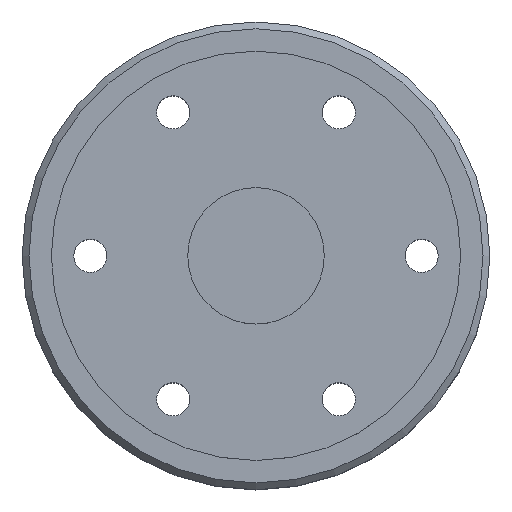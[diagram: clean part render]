
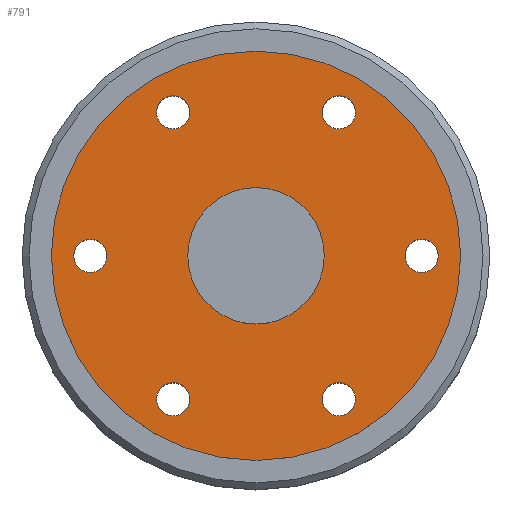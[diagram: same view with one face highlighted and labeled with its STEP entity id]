
A CAD part, top view. The second image highlights one B-rep face of the part: STEP entity #791.
In plain terms, the highlighted planar face has unit normal (0, 0, 1).
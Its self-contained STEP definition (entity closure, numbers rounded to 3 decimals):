
#235 = CYLINDRICAL_SURFACE('',#236,1.7);
#236 = AXIS2_PLACEMENT_3D('',#237,#238,#239);
#237 = CARTESIAN_POINT('',(-8.5,-14.722,-20.));
#238 = DIRECTION('',(0.,0.,1.));
#239 = DIRECTION('',(1.,0.,-0.));
#266 = CYLINDRICAL_SURFACE('',#267,1.7);
#267 = AXIS2_PLACEMENT_3D('',#268,#269,#270);
#268 = CARTESIAN_POINT('',(8.5,-14.722,-20.));
#269 = DIRECTION('',(0.,0.,1.));
#270 = DIRECTION('',(1.,0.,-0.));
#297 = CYLINDRICAL_SURFACE('',#298,1.7);
#298 = AXIS2_PLACEMENT_3D('',#299,#300,#301);
#299 = CARTESIAN_POINT('',(-17.,0.,-20.));
#300 = DIRECTION('',(0.,0.,1.));
#301 = DIRECTION('',(1.,0.,-0.));
#328 = CYLINDRICAL_SURFACE('',#329,1.7);
#329 = AXIS2_PLACEMENT_3D('',#330,#331,#332);
#330 = CARTESIAN_POINT('',(-8.5,14.722,-20.));
#331 = DIRECTION('',(0.,0.,1.));
#332 = DIRECTION('',(1.,0.,-0.));
#359 = CYLINDRICAL_SURFACE('',#360,1.7);
#360 = AXIS2_PLACEMENT_3D('',#361,#362,#363);
#361 = CARTESIAN_POINT('',(17.,0.,-20.));
#362 = DIRECTION('',(0.,0.,1.));
#363 = DIRECTION('',(1.,0.,-0.));
#390 = CYLINDRICAL_SURFACE('',#391,1.7);
#391 = AXIS2_PLACEMENT_3D('',#392,#393,#394);
#392 = CARTESIAN_POINT('',(8.5,14.722,-20.));
#393 = DIRECTION('',(0.,0.,1.));
#394 = DIRECTION('',(1.,0.,-0.));
#425 = CYLINDRICAL_SURFACE('',#426,21.);
#426 = AXIS2_PLACEMENT_3D('',#427,#428,#429);
#427 = CARTESIAN_POINT('',(0.,0.,8.));
#428 = DIRECTION('',(0.,0.,1.));
#429 = DIRECTION('',(1.,0.,-0.));
#440 = EDGE_CURVE('',#441,#441,#443,.T.);
#441 = VERTEX_POINT('',#442);
#442 = CARTESIAN_POINT('',(-6.8,-14.722,10.));
#443 = SURFACE_CURVE('',#444,(#449,#456),.PCURVE_S1.);
#444 = CIRCLE('',#445,1.7);
#445 = AXIS2_PLACEMENT_3D('',#446,#447,#448);
#446 = CARTESIAN_POINT('',(-8.5,-14.722,10.));
#447 = DIRECTION('',(0.,0.,1.));
#448 = DIRECTION('',(1.,0.,-0.));
#449 = PCURVE('',#235,#450);
#450 = DEFINITIONAL_REPRESENTATION('',(#451),#455);
#451 = LINE('',#452,#453);
#452 = CARTESIAN_POINT('',(0.,30.));
#453 = VECTOR('',#454,1.);
#454 = DIRECTION('',(1.,0.));
#455 = ( GEOMETRIC_REPRESENTATION_CONTEXT(2) 
PARAMETRIC_REPRESENTATION_CONTEXT() REPRESENTATION_CONTEXT('2D SPACE',''
  ) );
#456 = PCURVE('',#457,#462);
#457 = PLANE('',#458);
#458 = AXIS2_PLACEMENT_3D('',#459,#460,#461);
#459 = CARTESIAN_POINT('',(0.,0.,10.));
#460 = DIRECTION('',(0.,0.,1.));
#461 = DIRECTION('',(1.,0.,-0.));
#462 = DEFINITIONAL_REPRESENTATION('',(#463),#467);
#463 = CIRCLE('',#464,1.7);
#464 = AXIS2_PLACEMENT_2D('',#465,#466);
#465 = CARTESIAN_POINT('',(-8.5,-14.722));
#466 = DIRECTION('',(1.,0.));
#467 = ( GEOMETRIC_REPRESENTATION_CONTEXT(2) 
PARAMETRIC_REPRESENTATION_CONTEXT() REPRESENTATION_CONTEXT('2D SPACE',''
  ) );
#495 = EDGE_CURVE('',#496,#496,#498,.T.);
#496 = VERTEX_POINT('',#497);
#497 = CARTESIAN_POINT('',(10.2,-14.722,10.));
#498 = SURFACE_CURVE('',#499,(#504,#511),.PCURVE_S1.);
#499 = CIRCLE('',#500,1.7);
#500 = AXIS2_PLACEMENT_3D('',#501,#502,#503);
#501 = CARTESIAN_POINT('',(8.5,-14.722,10.));
#502 = DIRECTION('',(0.,0.,1.));
#503 = DIRECTION('',(1.,0.,-0.));
#504 = PCURVE('',#266,#505);
#505 = DEFINITIONAL_REPRESENTATION('',(#506),#510);
#506 = LINE('',#507,#508);
#507 = CARTESIAN_POINT('',(0.,30.));
#508 = VECTOR('',#509,1.);
#509 = DIRECTION('',(1.,0.));
#510 = ( GEOMETRIC_REPRESENTATION_CONTEXT(2) 
PARAMETRIC_REPRESENTATION_CONTEXT() REPRESENTATION_CONTEXT('2D SPACE',''
  ) );
#511 = PCURVE('',#457,#512);
#512 = DEFINITIONAL_REPRESENTATION('',(#513),#517);
#513 = CIRCLE('',#514,1.7);
#514 = AXIS2_PLACEMENT_2D('',#515,#516);
#515 = CARTESIAN_POINT('',(8.5,-14.722));
#516 = DIRECTION('',(1.,0.));
#517 = ( GEOMETRIC_REPRESENTATION_CONTEXT(2) 
PARAMETRIC_REPRESENTATION_CONTEXT() REPRESENTATION_CONTEXT('2D SPACE',''
  ) );
#545 = EDGE_CURVE('',#546,#546,#548,.T.);
#546 = VERTEX_POINT('',#547);
#547 = CARTESIAN_POINT('',(-15.3,0.,10.));
#548 = SURFACE_CURVE('',#549,(#554,#561),.PCURVE_S1.);
#549 = CIRCLE('',#550,1.7);
#550 = AXIS2_PLACEMENT_3D('',#551,#552,#553);
#551 = CARTESIAN_POINT('',(-17.,0.,10.));
#552 = DIRECTION('',(0.,0.,1.));
#553 = DIRECTION('',(1.,0.,-0.));
#554 = PCURVE('',#297,#555);
#555 = DEFINITIONAL_REPRESENTATION('',(#556),#560);
#556 = LINE('',#557,#558);
#557 = CARTESIAN_POINT('',(0.,30.));
#558 = VECTOR('',#559,1.);
#559 = DIRECTION('',(1.,0.));
#560 = ( GEOMETRIC_REPRESENTATION_CONTEXT(2) 
PARAMETRIC_REPRESENTATION_CONTEXT() REPRESENTATION_CONTEXT('2D SPACE',''
  ) );
#561 = PCURVE('',#457,#562);
#562 = DEFINITIONAL_REPRESENTATION('',(#563),#567);
#563 = CIRCLE('',#564,1.7);
#564 = AXIS2_PLACEMENT_2D('',#565,#566);
#565 = CARTESIAN_POINT('',(-17.,0.));
#566 = DIRECTION('',(1.,0.));
#567 = ( GEOMETRIC_REPRESENTATION_CONTEXT(2) 
PARAMETRIC_REPRESENTATION_CONTEXT() REPRESENTATION_CONTEXT('2D SPACE',''
  ) );
#595 = EDGE_CURVE('',#596,#596,#598,.T.);
#596 = VERTEX_POINT('',#597);
#597 = CARTESIAN_POINT('',(-6.8,14.722,10.));
#598 = SURFACE_CURVE('',#599,(#604,#611),.PCURVE_S1.);
#599 = CIRCLE('',#600,1.7);
#600 = AXIS2_PLACEMENT_3D('',#601,#602,#603);
#601 = CARTESIAN_POINT('',(-8.5,14.722,10.));
#602 = DIRECTION('',(0.,0.,1.));
#603 = DIRECTION('',(1.,0.,-0.));
#604 = PCURVE('',#328,#605);
#605 = DEFINITIONAL_REPRESENTATION('',(#606),#610);
#606 = LINE('',#607,#608);
#607 = CARTESIAN_POINT('',(0.,30.));
#608 = VECTOR('',#609,1.);
#609 = DIRECTION('',(1.,0.));
#610 = ( GEOMETRIC_REPRESENTATION_CONTEXT(2) 
PARAMETRIC_REPRESENTATION_CONTEXT() REPRESENTATION_CONTEXT('2D SPACE',''
  ) );
#611 = PCURVE('',#457,#612);
#612 = DEFINITIONAL_REPRESENTATION('',(#613),#617);
#613 = CIRCLE('',#614,1.7);
#614 = AXIS2_PLACEMENT_2D('',#615,#616);
#615 = CARTESIAN_POINT('',(-8.5,14.722));
#616 = DIRECTION('',(1.,0.));
#617 = ( GEOMETRIC_REPRESENTATION_CONTEXT(2) 
PARAMETRIC_REPRESENTATION_CONTEXT() REPRESENTATION_CONTEXT('2D SPACE',''
  ) );
#645 = EDGE_CURVE('',#646,#646,#648,.T.);
#646 = VERTEX_POINT('',#647);
#647 = CARTESIAN_POINT('',(18.7,0.,10.));
#648 = SURFACE_CURVE('',#649,(#654,#661),.PCURVE_S1.);
#649 = CIRCLE('',#650,1.7);
#650 = AXIS2_PLACEMENT_3D('',#651,#652,#653);
#651 = CARTESIAN_POINT('',(17.,0.,10.));
#652 = DIRECTION('',(0.,0.,1.));
#653 = DIRECTION('',(1.,0.,-0.));
#654 = PCURVE('',#359,#655);
#655 = DEFINITIONAL_REPRESENTATION('',(#656),#660);
#656 = LINE('',#657,#658);
#657 = CARTESIAN_POINT('',(0.,30.));
#658 = VECTOR('',#659,1.);
#659 = DIRECTION('',(1.,0.));
#660 = ( GEOMETRIC_REPRESENTATION_CONTEXT(2) 
PARAMETRIC_REPRESENTATION_CONTEXT() REPRESENTATION_CONTEXT('2D SPACE',''
  ) );
#661 = PCURVE('',#457,#662);
#662 = DEFINITIONAL_REPRESENTATION('',(#663),#667);
#663 = CIRCLE('',#664,1.7);
#664 = AXIS2_PLACEMENT_2D('',#665,#666);
#665 = CARTESIAN_POINT('',(17.,0.));
#666 = DIRECTION('',(1.,0.));
#667 = ( GEOMETRIC_REPRESENTATION_CONTEXT(2) 
PARAMETRIC_REPRESENTATION_CONTEXT() REPRESENTATION_CONTEXT('2D SPACE',''
  ) );
#695 = EDGE_CURVE('',#696,#696,#698,.T.);
#696 = VERTEX_POINT('',#697);
#697 = CARTESIAN_POINT('',(10.2,14.722,10.));
#698 = SURFACE_CURVE('',#699,(#704,#711),.PCURVE_S1.);
#699 = CIRCLE('',#700,1.7);
#700 = AXIS2_PLACEMENT_3D('',#701,#702,#703);
#701 = CARTESIAN_POINT('',(8.5,14.722,10.));
#702 = DIRECTION('',(0.,0.,1.));
#703 = DIRECTION('',(1.,0.,-0.));
#704 = PCURVE('',#390,#705);
#705 = DEFINITIONAL_REPRESENTATION('',(#706),#710);
#706 = LINE('',#707,#708);
#707 = CARTESIAN_POINT('',(0.,30.));
#708 = VECTOR('',#709,1.);
#709 = DIRECTION('',(1.,0.));
#710 = ( GEOMETRIC_REPRESENTATION_CONTEXT(2) 
PARAMETRIC_REPRESENTATION_CONTEXT() REPRESENTATION_CONTEXT('2D SPACE',''
  ) );
#711 = PCURVE('',#457,#712);
#712 = DEFINITIONAL_REPRESENTATION('',(#713),#717);
#713 = CIRCLE('',#714,1.7);
#714 = AXIS2_PLACEMENT_2D('',#715,#716);
#715 = CARTESIAN_POINT('',(8.5,14.722));
#716 = DIRECTION('',(1.,0.));
#717 = ( GEOMETRIC_REPRESENTATION_CONTEXT(2) 
PARAMETRIC_REPRESENTATION_CONTEXT() REPRESENTATION_CONTEXT('2D SPACE',''
  ) );
#745 = EDGE_CURVE('',#746,#746,#748,.T.);
#746 = VERTEX_POINT('',#747);
#747 = CARTESIAN_POINT('',(21.,0.,10.));
#748 = SURFACE_CURVE('',#749,(#754,#761),.PCURVE_S1.);
#749 = CIRCLE('',#750,21.);
#750 = AXIS2_PLACEMENT_3D('',#751,#752,#753);
#751 = CARTESIAN_POINT('',(0.,0.,10.));
#752 = DIRECTION('',(0.,0.,1.));
#753 = DIRECTION('',(1.,0.,-0.));
#754 = PCURVE('',#425,#755);
#755 = DEFINITIONAL_REPRESENTATION('',(#756),#760);
#756 = LINE('',#757,#758);
#757 = CARTESIAN_POINT('',(0.,2.));
#758 = VECTOR('',#759,1.);
#759 = DIRECTION('',(1.,0.));
#760 = ( GEOMETRIC_REPRESENTATION_CONTEXT(2) 
PARAMETRIC_REPRESENTATION_CONTEXT() REPRESENTATION_CONTEXT('2D SPACE',''
  ) );
#761 = PCURVE('',#457,#762);
#762 = DEFINITIONAL_REPRESENTATION('',(#763),#767);
#763 = CIRCLE('',#764,21.);
#764 = AXIS2_PLACEMENT_2D('',#765,#766);
#765 = CARTESIAN_POINT('',(0.,0.));
#766 = DIRECTION('',(1.,0.));
#767 = ( GEOMETRIC_REPRESENTATION_CONTEXT(2) 
PARAMETRIC_REPRESENTATION_CONTEXT() REPRESENTATION_CONTEXT('2D SPACE',''
  ) );
#791 = ADVANCED_FACE('',(#792,#795,#798,#801,#804,#835,#838,#841),#457,
  .T.);
#792 = FACE_BOUND('',#793,.T.);
#793 = EDGE_LOOP('',(#794));
#794 = ORIENTED_EDGE('',*,*,#745,.T.);
#795 = FACE_BOUND('',#796,.T.);
#796 = EDGE_LOOP('',(#797));
#797 = ORIENTED_EDGE('',*,*,#440,.F.);
#798 = FACE_BOUND('',#799,.T.);
#799 = EDGE_LOOP('',(#800));
#800 = ORIENTED_EDGE('',*,*,#495,.F.);
#801 = FACE_BOUND('',#802,.T.);
#802 = EDGE_LOOP('',(#803));
#803 = ORIENTED_EDGE('',*,*,#545,.F.);
#804 = FACE_BOUND('',#805,.T.);
#805 = EDGE_LOOP('',(#806));
#806 = ORIENTED_EDGE('',*,*,#807,.F.);
#807 = EDGE_CURVE('',#808,#808,#810,.T.);
#808 = VERTEX_POINT('',#809);
#809 = CARTESIAN_POINT('',(7.,0.,10.));
#810 = SURFACE_CURVE('',#811,(#816,#823),.PCURVE_S1.);
#811 = CIRCLE('',#812,7.);
#812 = AXIS2_PLACEMENT_3D('',#813,#814,#815);
#813 = CARTESIAN_POINT('',(0.,0.,10.));
#814 = DIRECTION('',(0.,0.,1.));
#815 = DIRECTION('',(1.,0.,-0.));
#816 = PCURVE('',#457,#817);
#817 = DEFINITIONAL_REPRESENTATION('',(#818),#822);
#818 = CIRCLE('',#819,7.);
#819 = AXIS2_PLACEMENT_2D('',#820,#821);
#820 = CARTESIAN_POINT('',(0.,0.));
#821 = DIRECTION('',(1.,0.));
#822 = ( GEOMETRIC_REPRESENTATION_CONTEXT(2) 
PARAMETRIC_REPRESENTATION_CONTEXT() REPRESENTATION_CONTEXT('2D SPACE',''
  ) );
#823 = PCURVE('',#824,#829);
#824 = CYLINDRICAL_SURFACE('',#825,7.);
#825 = AXIS2_PLACEMENT_3D('',#826,#827,#828);
#826 = CARTESIAN_POINT('',(0.,0.,10.));
#827 = DIRECTION('',(0.,0.,1.));
#828 = DIRECTION('',(1.,0.,-0.));
#829 = DEFINITIONAL_REPRESENTATION('',(#830),#834);
#830 = LINE('',#831,#832);
#831 = CARTESIAN_POINT('',(0.,0.));
#832 = VECTOR('',#833,1.);
#833 = DIRECTION('',(1.,0.));
#834 = ( GEOMETRIC_REPRESENTATION_CONTEXT(2) 
PARAMETRIC_REPRESENTATION_CONTEXT() REPRESENTATION_CONTEXT('2D SPACE',''
  ) );
#835 = FACE_BOUND('',#836,.T.);
#836 = EDGE_LOOP('',(#837));
#837 = ORIENTED_EDGE('',*,*,#595,.F.);
#838 = FACE_BOUND('',#839,.T.);
#839 = EDGE_LOOP('',(#840));
#840 = ORIENTED_EDGE('',*,*,#645,.F.);
#841 = FACE_BOUND('',#842,.T.);
#842 = EDGE_LOOP('',(#843));
#843 = ORIENTED_EDGE('',*,*,#695,.F.);
